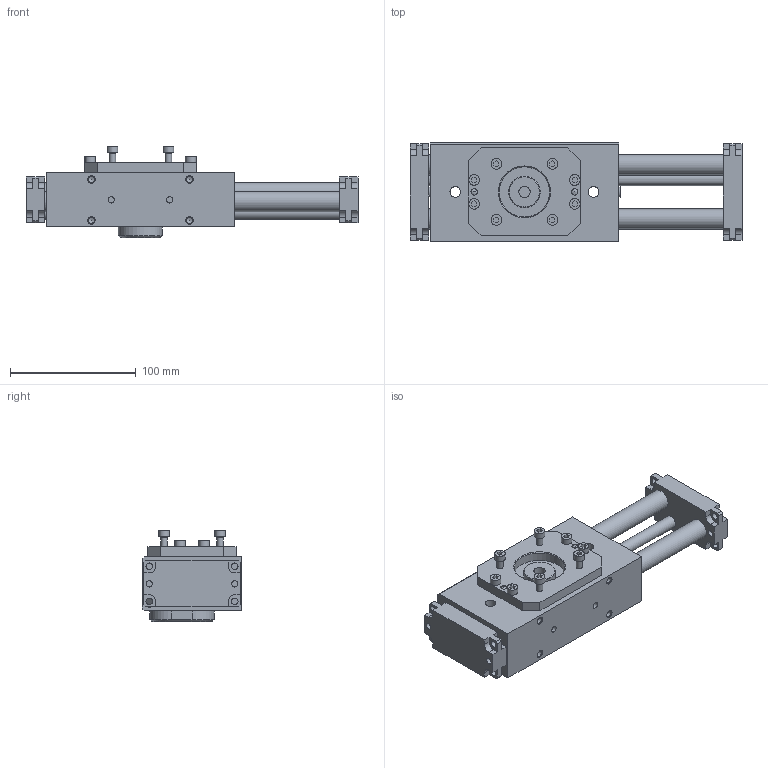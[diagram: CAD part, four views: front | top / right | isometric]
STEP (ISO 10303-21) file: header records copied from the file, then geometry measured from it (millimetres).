
FILE_DESCRIPTION( ( 'STEP AP214' ), '1' );
FILE_NAME( 'U:/Etudes/Top Solid/BIBLIO 3D AVM/STEP/N_ELECTRIQUE/Linéaires/Type 832/8322103.step', '2007-06-28T10:00:32', ( ' ' ), ( ' ' ), 'XStep 1.0', ' ', ' ' );
FILE_SCHEMA( ( 'automotive_design' ) );
Length unit declared in the file: millimetre
Products named in the file (7): 1; 2; 3; 4; 5; 6; 7
Bounding box: 264 x 79 x 72.5 mm (x, y, z)
Volume: 633532.4 mm3; surface area: 139631.9 mm2
Topology: 7 solids, 13 shells, 419 faces, 999 edges, 668 vertices
Faces by surface type: plane 238, cylinder 137, cone 42, bspline 2
Full cylindrical faces by diameter (mm): 3.242 x4, 4.134 x12, 4.918 x8, 5 x20, 5.02 x12, 5.1 x4, 5.2 x10, 5.5 x4, 6.1 x4, 8 x6, 8.5 x14, 9 x1, 10 x2, 14 x1, 16 x5, 19 x1, 25 x1, 40 x1
Entity records: 14806 total; most frequent: CARTESIAN_POINT 2367, DIRECTION 1890, ORIENTED_EDGE 1534, EDGE_CURVE 767, AXIS2_PLACEMENT_3D 712, EDGE_LOOP 684, VERTEX_POINT 601, FACE_OUTER_BOUND 529
